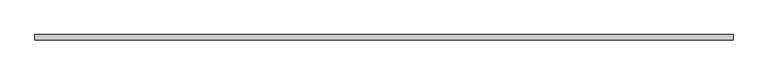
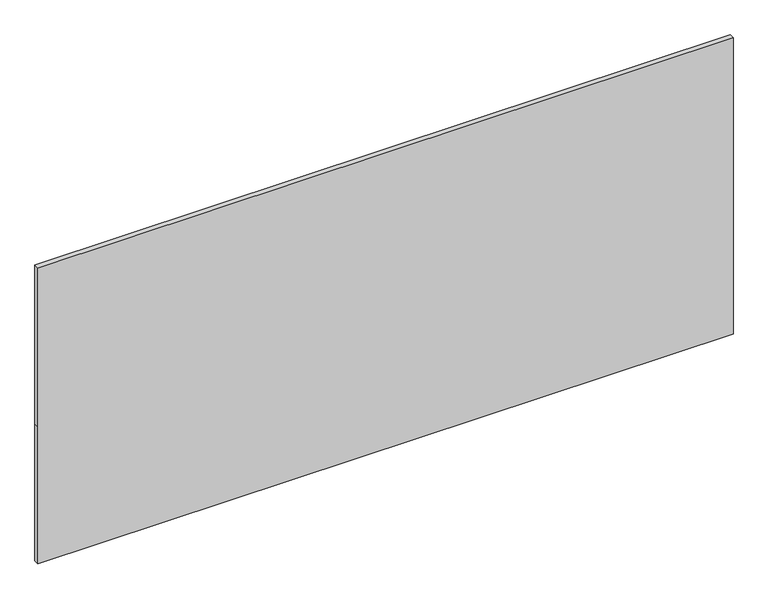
"""IFC4 building model written with IfcOpenShell, lengths in millimetres: plate geometry, Panneau système : Vitrages extérieur."""

from ifc_helpers import new_model, si_unit, frame, origin, place, context, project, spatial, polyline, outline, extrude, source, transform, mapped, element, save


def plate_192b1ce9(model_context):
    return source(origin(), model_context, "Body", "SweptSolid", [
        extrude(outline(polyline([(0.0, -1609.8951724), (0.0, 1609.8951724), (671.2233546, 1609.8951724), (1451.05362, 1609.8951724), (1451.05362, -1609.8951724), (671.2233546, -1609.8951724), (0.0, -1609.8951724)])), frame((0.0, -12.0, 0.0), z_axis=(0.0, 1.0, 0.0), x_axis=(0.0, 0.0, 1.0)), (0.0, 0.0, 1.0), 24.0),
    ])


if __name__ == "__main__":
    model = new_model("IFC4")
    model_context = context("Model", 3, world=origin())
    ifc_project = project(units=[si_unit("LENGTHUNIT", "METRE", prefix="MILLI")], contexts=[model_context])
    site = spatial("IfcSite", under=ifc_project)
    building = spatial("IfcBuilding", under=site)
    placement = place(None, origin())
    plate_shape = plate_192b1ce9(model_context)
    element("IfcPlate", 1, ObjectType="Panneau système : Vitrages extérieur", at=placement, inside=building, context=model_context, shape_type="MappedRepresentation", body=[
        mapped(plate_shape, transform((0.0, 0.0, 0.0), x_axis=(1.0, 0.0, 0.0), y_axis=(0.0, 1.0, 0.0), z_axis=(0.0, 0.0, 1.0))),
    ])
    save(model, "model.ifc")
